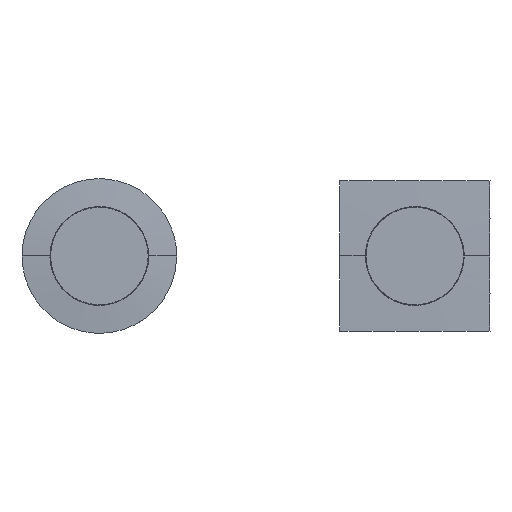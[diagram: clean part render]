
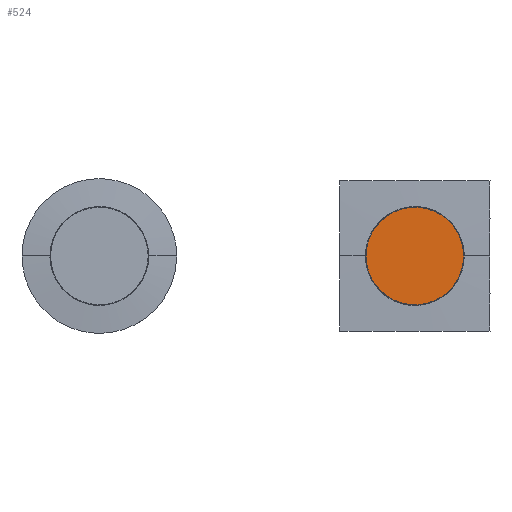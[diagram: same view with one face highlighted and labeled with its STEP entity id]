
A CAD part, top view. The second image highlights one B-rep face of the part: STEP entity #524.
In plain terms, the highlighted free-form (B-spline) face has degree [1, 1] with [2, 2] control points.
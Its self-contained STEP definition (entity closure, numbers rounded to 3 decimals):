
#524=ADVANCED_FACE('',(#1350),#26076,.T.);
#1350=FACE_OUTER_BOUND('',#2239,.T.);
#2239=EDGE_LOOP('',(#4554,#4555));
#4554=ORIENTED_EDGE('',*,*,#18881,.F.);
#4555=ORIENTED_EDGE('',*,*,#18884,.T.);
#7308=(
BOUNDED_CURVE()
B_SPLINE_CURVE(2,(#44835,#44836,#44837,#44838,#44839),.UNSPECIFIED.,.F.,
 .F.)
B_SPLINE_CURVE_WITH_KNOTS((3,2,3),(57.334,86.001,114.668),
 .UNSPECIFIED.)
CURVE()
GEOMETRIC_REPRESENTATION_ITEM()
RATIONAL_B_SPLINE_CURVE((1.,0.707,1.,0.707,1.))
REPRESENTATION_ITEM('')
);
#7311=(
BOUNDED_CURVE()
B_SPLINE_CURVE(2,(#44853,#44854,#44855,#44856,#44857),.UNSPECIFIED.,.F.,
 .F.)
B_SPLINE_CURVE_WITH_KNOTS((3,2,3),(57.334,86.001,114.668),
 .UNSPECIFIED.)
CURVE()
GEOMETRIC_REPRESENTATION_ITEM()
RATIONAL_B_SPLINE_CURVE((1.,0.707,1.,0.707,1.))
REPRESENTATION_ITEM('')
);
#7312=(
BOUNDED_CURVE()
B_SPLINE_CURVE(2,(#44858,#44859,#44860,#44861,#44862),.UNSPECIFIED.,.F.,
 .F.)
B_SPLINE_CURVE_WITH_KNOTS((3,2,3),(-57.334,-28.667,
0.),.UNSPECIFIED.)
CURVE()
GEOMETRIC_REPRESENTATION_ITEM()
RATIONAL_B_SPLINE_CURVE((1.,0.707,1.,0.707,1.))
REPRESENTATION_ITEM('')
);
#7313=(
BOUNDED_CURVE()
B_SPLINE_CURVE(2,(#44863,#44864,#44865,#44866,#44867),.UNSPECIFIED.,.F.,
 .F.)
B_SPLINE_CURVE_WITH_KNOTS((3,2,3),(-57.334,-28.667,
0.),.UNSPECIFIED.)
CURVE()
GEOMETRIC_REPRESENTATION_ITEM()
RATIONAL_B_SPLINE_CURVE((1.,0.707,1.,0.707,1.))
REPRESENTATION_ITEM('')
);
#9758=PCURVE('',#26449,#13762);
#9761=PCURVE('',#26076,#13765);
#9762=PCURVE('',#26076,#13766);
#9775=PCURVE('',#26451,#13779);
#13762=DEFINITIONAL_REPRESENTATION('',(#22132),#66305);
#13765=DEFINITIONAL_REPRESENTATION('',(#7311),#66305);
#13766=DEFINITIONAL_REPRESENTATION('',(#7313),#66305);
#13779=DEFINITIONAL_REPRESENTATION('',(#22141),#66305);
#16877=SURFACE_CURVE('',#7308,(#9758,#9761),.PCURVE_S1.);
#16880=SURFACE_CURVE('',#7312,(#9762,#9775),.PCURVE_S1.);
#18881=EDGE_CURVE('',#25322,#25318,#16877,.T.);
#18884=EDGE_CURVE('',#25322,#25318,#16880,.T.);
#22132=B_SPLINE_CURVE_WITH_KNOTS('',1,(#44840,#44841),.UNSPECIFIED.,.F.,
 .F.,(2,2),(57.334,114.668),.UNSPECIFIED.);
#22141=B_SPLINE_CURVE_WITH_KNOTS('',1,(#44939,#44940),.UNSPECIFIED.,.F.,
 .F.,(2,2),(-57.334,0.),.UNSPECIFIED.);
#25318=VERTEX_POINT('',#44824);
#25322=VERTEX_POINT('',#44828);
#26076=B_SPLINE_SURFACE_WITH_KNOTS('',1,1,((#44781,#44782),(#44783,#44784)),
 .UNSPECIFIED.,.F.,.F.,.F.,(2,2),(2,2),(-4.563,41.063),(-22.813,22.813),
 .UNSPECIFIED.);
#26449=(
BOUNDED_SURFACE()
B_SPLINE_SURFACE(2,1,((#44771,#44772),(#44773,#44774),(#44775,#44776),(#44777,
#44778),(#44779,#44780)),.UNSPECIFIED.,.F.,.F.,.F.)
B_SPLINE_SURFACE_WITH_KNOTS((3,2,3),(2,2),(-114.668,-86.001,
-57.334),(0.,2.4),.UNSPECIFIED.)
GEOMETRIC_REPRESENTATION_ITEM()
RATIONAL_B_SPLINE_SURFACE(((1.,1.),(0.707,0.707),
(1.,1.),(0.707,0.707),(1.,1.)))
REPRESENTATION_ITEM('')
SURFACE()
);
#26451=(
BOUNDED_SURFACE()
B_SPLINE_SURFACE(2,1,((#44803,#44804),(#44805,#44806),(#44807,#44808),(#44809,
#44810),(#44811,#44812)),.UNSPECIFIED.,.F.,.F.,.F.)
B_SPLINE_SURFACE_WITH_KNOTS((3,2,3),(2,2),(-57.334,-28.667,
0.),(0.,2.4),.UNSPECIFIED.)
GEOMETRIC_REPRESENTATION_ITEM()
RATIONAL_B_SPLINE_SURFACE(((1.,1.),(0.707,0.707),
(1.,1.),(0.707,0.707),(1.,1.)))
REPRESENTATION_ITEM('')
SURFACE()
);
#44771=CARTESIAN_POINT('',(136.349,0.,62.45));
#44772=CARTESIAN_POINT('',(136.349,0.,64.85));
#44773=CARTESIAN_POINT('',(136.349,18.25,62.45));
#44774=CARTESIAN_POINT('',(136.349,18.25,64.85));
#44775=CARTESIAN_POINT('',(118.099,18.25,62.45));
#44776=CARTESIAN_POINT('',(118.099,18.25,64.85));
#44777=CARTESIAN_POINT('',(99.849,18.25,62.45));
#44778=CARTESIAN_POINT('',(99.849,18.25,64.85));
#44779=CARTESIAN_POINT('',(99.849,0.,62.45));
#44780=CARTESIAN_POINT('',(99.849,0.,64.85));
#44781=CARTESIAN_POINT('',(140.912,22.812,64.85));
#44782=CARTESIAN_POINT('',(140.912,-22.813,64.85));
#44783=CARTESIAN_POINT('',(95.287,22.813,64.85));
#44784=CARTESIAN_POINT('',(95.287,-22.812,64.85));
#44803=CARTESIAN_POINT('',(99.849,0.,62.45));
#44804=CARTESIAN_POINT('',(99.849,0.,64.85));
#44805=CARTESIAN_POINT('',(99.849,-18.25,62.45));
#44806=CARTESIAN_POINT('',(99.849,-18.25,64.85));
#44807=CARTESIAN_POINT('',(118.099,-18.25,62.45));
#44808=CARTESIAN_POINT('',(118.099,-18.25,64.85));
#44809=CARTESIAN_POINT('',(136.349,-18.25,62.45));
#44810=CARTESIAN_POINT('',(136.349,-18.25,64.85));
#44811=CARTESIAN_POINT('',(136.349,0.,62.45));
#44812=CARTESIAN_POINT('',(136.349,0.,64.85));
#44824=CARTESIAN_POINT('',(136.349,0.,64.85));
#44828=CARTESIAN_POINT('',(99.849,0.,64.85));
#44835=CARTESIAN_POINT('',(99.849,0.,64.85));
#44836=CARTESIAN_POINT('',(99.849,18.25,64.85));
#44837=CARTESIAN_POINT('',(118.099,18.25,64.85));
#44838=CARTESIAN_POINT('',(136.349,18.25,64.85));
#44839=CARTESIAN_POINT('',(136.349,0.,64.85));
#44840=CARTESIAN_POINT('',(-57.334,2.4));
#44841=CARTESIAN_POINT('',(-114.668,2.4));
#44853=CARTESIAN_POINT('',(36.5,0.));
#44854=CARTESIAN_POINT('',(36.5,-18.25));
#44855=CARTESIAN_POINT('',(18.25,-18.25));
#44856=CARTESIAN_POINT('',(0.,-18.25));
#44857=CARTESIAN_POINT('',(0.,0.));
#44858=CARTESIAN_POINT('',(99.849,0.,64.85));
#44859=CARTESIAN_POINT('',(99.849,-18.25,64.85));
#44860=CARTESIAN_POINT('',(118.099,-18.25,64.85));
#44861=CARTESIAN_POINT('',(136.349,-18.25,64.85));
#44862=CARTESIAN_POINT('',(136.349,0.,64.85));
#44863=CARTESIAN_POINT('',(36.5,0.));
#44864=CARTESIAN_POINT('',(36.5,18.25));
#44865=CARTESIAN_POINT('',(18.25,18.25));
#44866=CARTESIAN_POINT('',(0.,18.25));
#44867=CARTESIAN_POINT('',(0.,0.));
#44939=CARTESIAN_POINT('',(-57.334,2.4));
#44940=CARTESIAN_POINT('',(0.,2.4));
#66305=(
GEOMETRIC_REPRESENTATION_CONTEXT(2)
PARAMETRIC_REPRESENTATION_CONTEXT()
REPRESENTATION_CONTEXT('pspace','')
);
